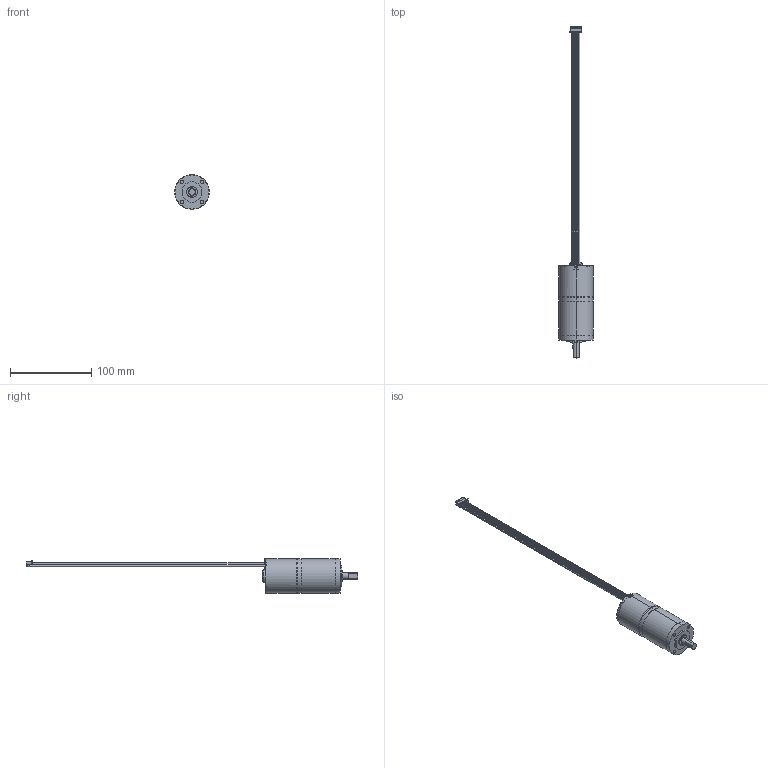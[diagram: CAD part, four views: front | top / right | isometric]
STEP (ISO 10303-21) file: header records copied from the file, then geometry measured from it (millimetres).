
FILE_DESCRIPTION((''),'2;1');
FILE_NAME('IG-42GM-61TYPE-4STAGE_ASM','2023-07-06T15:18:48',('M.C.Hsu'),(''),'CREO PARAMETRIC BY PTC INC, 2020414','CREO PARAMETRIC BY PTC INC, 2020414','');
FILE_SCHEMA(('CONFIG_CONTROL_DESIGN'));
Length unit declared in the file: millimetre
Products named in the file (19): NONE-11686; NONE-29902; NONE-30661; NONE-48575; NONE-49237; NONE-49326; NONE-49522; NONE-49816; UVW__W_L___STEP_ASM; _W_L___STEP_ASM; XHP-5_STEP; BL42610101____U_M______STEP; 4239_D_B_STEP; BL42012102____F___20230202_STEP; _STEP; BL4239__STEP000_ASM; IG420864-00; IG-42GM-61TYPE-4STAGE_1_ASM; IG-42GM-61TYPE-4STAGE_ASM
Assembly tree (18 placements, depth 6):
  IG-42GM-61TYPE-4STAGE_ASM
    IG-42GM-61TYPE-4STAGE_1_ASM
      BL4239__STEP000_ASM
        _W_L___STEP_ASM
          UVW__W_L___STEP_ASM
            NONE-11686
            NONE-29902
            NONE-30661
            NONE-48575
            NONE-49237
            NONE-49326
            NONE-49522
            NONE-49816
        XHP-5_STEP
        BL42610101____U_M______STEP
        4239_D_B_STEP
        BL42012102____F___20230202_STEP
        _STEP
      IG420864-00
Bounding box: 42.4 x 408.25 x 42.45 mm (x, y, z)
Volume: 87937.6 mm3; surface area: 42083.5 mm2
Topology: 14 solids, 14 shells, 384 faces, 906 edges, 594 vertices
Faces by surface type: plane 227, cylinder 121, torus 28, cone 8
Entity records: 11700 total; most frequent: DIRECTION 2130, CARTESIAN_POINT 2032, ORIENTED_EDGE 1812, EDGE_CURVE 906, AXIS2_PLACEMENT_3D 790, VERTEX_POINT 594, VECTOR 550, LINE 550
